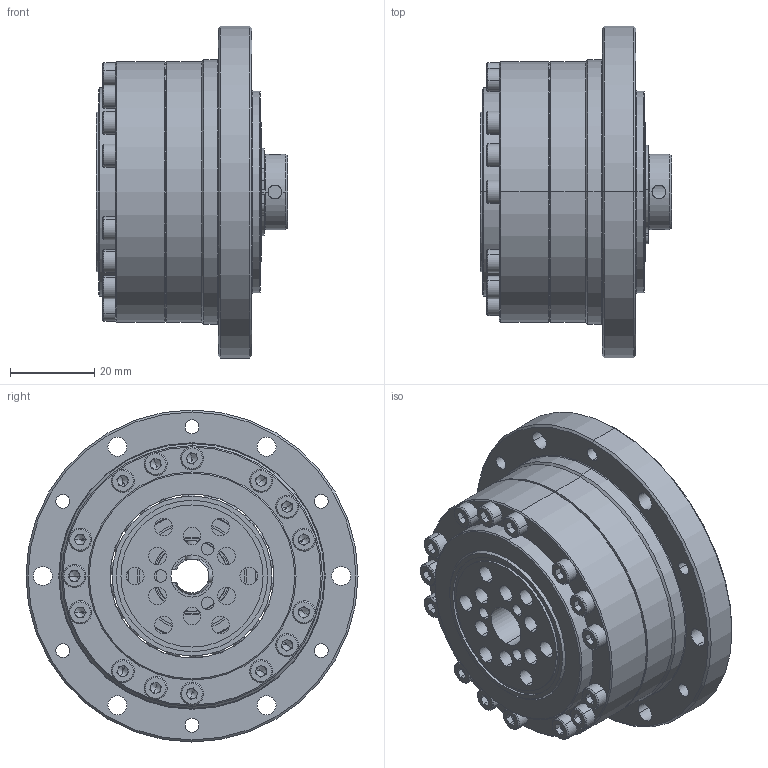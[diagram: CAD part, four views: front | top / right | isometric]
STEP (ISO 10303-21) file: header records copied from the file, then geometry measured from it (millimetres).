
FILE_DESCRIPTION (( 'STEP AP203' ), '1' );
FILE_NAME ('BCS-17-XXX-U-¢ò.STEP', '2019-01-15T03:17:13', ( 'User' ), ( 'China' ), 'SwSTEP 2.0', 'SolidWorks 2015', '' );
FILE_SCHEMA (( 'CONFIG_CONTROL_DESIGN' ));
Length unit declared in the file: millimetre
Products named in the file (1): BCS-17-XXX-U-ｊ
Bounding box: 45.46 x 79 x 79 mm (x, y, z)
Surface area: 30889.4 mm2 (no closed solid volume)
Topology: 0 solids, 29 shells, 508 faces, 1595 edges, 1017 vertices
Faces by surface type: plane 168, cylinder 145, cone 85, torus 64, sphere 44, bspline 2
Entity records: 17414 total; most frequent: CARTESIAN_POINT 4055, DIRECTION 2911, ORIENTED_EDGE 2506, EDGE_CURVE 1455, AXIS2_PLACEMENT_3D 1149, VERTEX_POINT 951, CIRCLE 642, VECTOR 613
